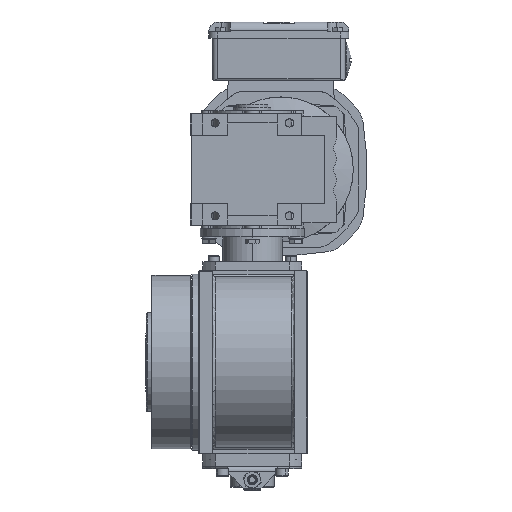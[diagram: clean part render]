
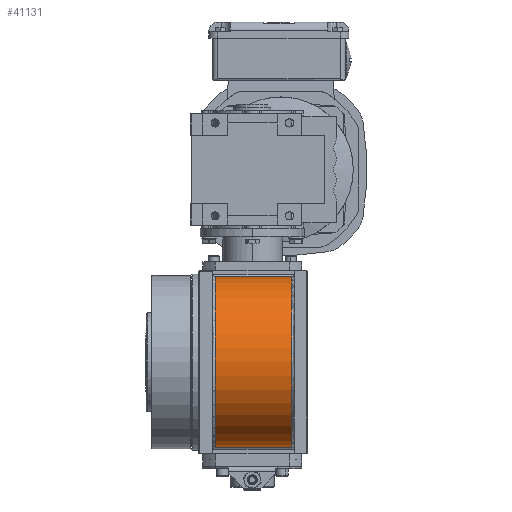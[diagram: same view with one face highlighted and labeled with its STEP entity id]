
A CAD part, left-side view. The second image highlights one B-rep face of the part: STEP entity #41131.
In plain terms, the highlighted cylindrical face has radius 69 mm (diameter 138 mm), a partial arc.
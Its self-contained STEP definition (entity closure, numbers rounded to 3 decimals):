
#836 = DIRECTION ( 'NONE',  ( 0., 1., 0. ) ) ;
#2288 = CARTESIAN_POINT ( 'NONE',  ( -38.624, 8.762, 40.609 ) ) ;
#4345 = CARTESIAN_POINT ( 'NONE',  ( -42.511, 10.762, 109.5 ) ) ;
#6422 = DIRECTION ( 'NONE',  ( 0., -1., 0. ) ) ;
#9293 = VECTOR ( 'NONE', #836, 1000. ) ;
#9779 = EDGE_LOOP ( 'NONE', ( #35146, #27579, #16188, #20672 ) ) ;
#9993 = LINE ( 'NONE', #4345, #9293 ) ;
#15332 = FACE_OUTER_BOUND ( 'NONE', #9779, .T. ) ;
#16188 = ORIENTED_EDGE ( 'NONE', *, *, #60760, .T. ) ;
#20060 = DIRECTION ( 'NONE',  ( 0., -1., 0. ) ) ;
#20370 = CYLINDRICAL_SURFACE ( 'NONE', #57824, 69. ) ;
#20672 = ORIENTED_EDGE ( 'NONE', *, *, #43897, .T. ) ;
#23599 = LINE ( 'NONE', #32131, #27982 ) ;
#25412 = CARTESIAN_POINT ( 'NONE',  ( -42.511, -53.238, 109.5 ) ) ;
#26654 = VERTEX_POINT ( 'NONE', #56329 ) ;
#26980 = CARTESIAN_POINT ( 'NONE',  ( -42.511, 8.762, 109.5 ) ) ;
#27579 = ORIENTED_EDGE ( 'NONE', *, *, #47287, .T. ) ;
#27632 = CARTESIAN_POINT ( 'NONE',  ( -38.624, -53.238, 40.609 ) ) ;
#27982 = VECTOR ( 'NONE', #61514, 1000. ) ;
#31006 = DIRECTION ( 'NONE',  ( 0., 0., 1. ) ) ;
#32131 = CARTESIAN_POINT ( 'NONE',  ( -42.511, 10.762, -28.281 ) ) ;
#33706 = EDGE_CURVE ( 'NONE', #49827, #41112, #41934, .T. ) ;
#34892 = CARTESIAN_POINT ( 'NONE',  ( -38.624, 10.762, 40.609 ) ) ;
#35146 = ORIENTED_EDGE ( 'NONE', *, *, #33706, .T. ) ;
#36274 = CIRCLE ( 'NONE', #51376, 69. ) ;
#39634 = DIRECTION ( 'NONE',  ( 0., 0., -1. ) ) ;
#41112 = VERTEX_POINT ( 'NONE', #25412 ) ;
#41131 = ADVANCED_FACE ( 'NONE', ( #15332 ), #20370, .T. ) ;
#41934 = CIRCLE ( 'NONE', #55118, 69. ) ;
#43897 = EDGE_CURVE ( 'NONE', #26654, #49827, #23599, .T. ) ;
#47287 = EDGE_CURVE ( 'NONE', #41112, #57132, #9993, .T. ) ;
#49827 = VERTEX_POINT ( 'NONE', #57017 ) ;
#51376 = AXIS2_PLACEMENT_3D ( 'NONE', #2288, #6422, #31006 ) ;
#52262 = DIRECTION ( 'NONE',  ( 0., 1., 0. ) ) ;
#55118 = AXIS2_PLACEMENT_3D ( 'NONE', #27632, #52262, #61736 ) ;
#56329 = CARTESIAN_POINT ( 'NONE',  ( -42.511, 8.762, -28.281 ) ) ;
#57017 = CARTESIAN_POINT ( 'NONE',  ( -42.511, -53.238, -28.281 ) ) ;
#57132 = VERTEX_POINT ( 'NONE', #26980 ) ;
#57824 = AXIS2_PLACEMENT_3D ( 'NONE', #34892, #20060, #39634 ) ;
#60760 = EDGE_CURVE ( 'NONE', #57132, #26654, #36274, .T. ) ;
#61514 = DIRECTION ( 'NONE',  ( 0., -1., 0. ) ) ;
#61736 = DIRECTION ( 'NONE',  ( 0., 0., 1. ) ) ;
